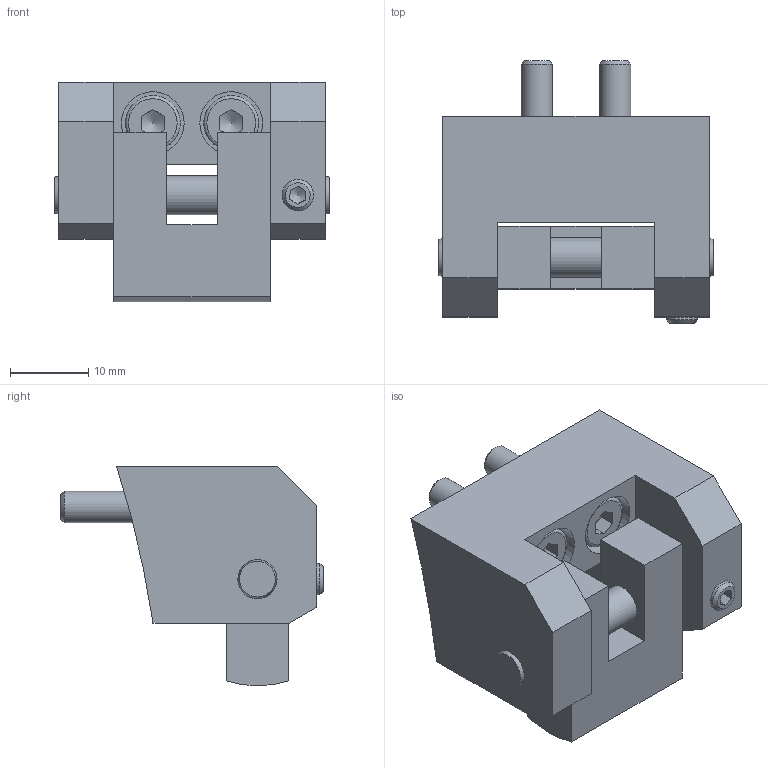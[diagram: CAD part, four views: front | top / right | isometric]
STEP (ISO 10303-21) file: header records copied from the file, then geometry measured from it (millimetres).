
FILE_DESCRIPTION(/* description */ (''),/* implementation_level */ '2;1');
FILE_NAME(/* name */ '\\dc01\daten\CAD\Standard\Daten\3D-Datenbank\SWS\4 - 3D-CAD-Daten SWS 050-160\SWS250\step-Daten\EG-SWS250-VS2.stp',/* time_stamp */ '2016-11-11T11:35:53+01:00',/* author */ ('ysplieth'),/* organization */ (''),/* preprocessor_version */ 'ST-DEVELOPER v15.2',/* originating_system */ 'Autodesk Inventor 2014',/* authorisation */ '');
FILE_SCHEMA (('AUTOMOTIVE_DESIGN { 1 0 10303 214 3 1 1 }'));
Length unit declared in the file: millimetre
Products named in the file (1): Bauteil2
Bounding box: 35 x 33.5 x 28 mm (x, y, z)
Volume: 11604.1 mm3; surface area: 6647 mm2
Topology: 2 solids, 4 shells, 89 faces, 204 edges, 134 vertices
Faces by surface type: plane 55, cylinder 20, cone 10, torus 4
Full cylindrical faces by diameter (mm): 4 x3, 4.5 x2, 5 x3, 5.1 x2, 7 x2, 8 x2
Entity records: 2519 total; most frequent: CARTESIAN_POINT 543, DIRECTION 368, ORIENTED_EDGE 340, EDGE_CURVE 170, AXIS2_PLACEMENT_3D 135, EDGE_LOOP 132, VERTEX_POINT 126, LINE 98
